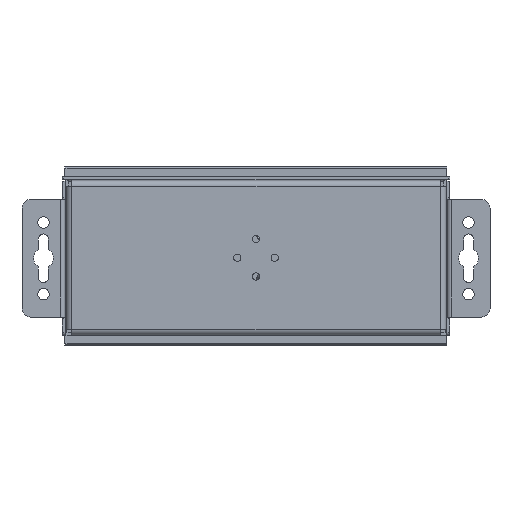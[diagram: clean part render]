
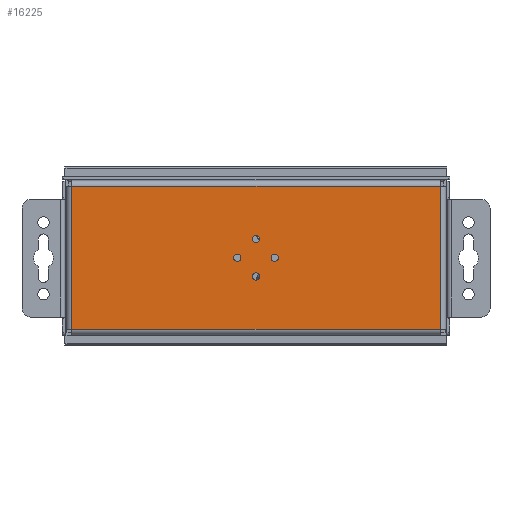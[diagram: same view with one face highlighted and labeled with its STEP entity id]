
A CAD part, front view. The second image highlights one B-rep face of the part: STEP entity #16225.
In plain terms, the highlighted planar face has unit normal (0, -1, 0).
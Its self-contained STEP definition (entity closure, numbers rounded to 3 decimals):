
#550=FACE_BOUND('',#2337,.T.);
#551=FACE_BOUND('',#2338,.T.);
#552=FACE_BOUND('',#2339,.T.);
#553=FACE_BOUND('',#2340,.T.);
#807=PLANE('',#17308);
#1412=FACE_OUTER_BOUND('',#2336,.T.);
#2336=EDGE_LOOP('',(#11400,#11401,#11402,#11403));
#2337=EDGE_LOOP('',(#11404));
#2338=EDGE_LOOP('',(#11405));
#2339=EDGE_LOOP('',(#11406));
#2340=EDGE_LOOP('',(#11407));
#3415=LINE('',#23501,#5036);
#3434=LINE('',#23549,#5055);
#3445=LINE('',#23580,#5066);
#3473=LINE('',#23643,#5094);
#5036=VECTOR('',#18876,10.);
#5055=VECTOR('',#18927,10.);
#5066=VECTOR('',#18958,10.);
#5094=VECTOR('',#19032,10.);
#6641=CIRCLE('',#17211,1.265);
#6643=CIRCLE('',#17214,1.265);
#6645=CIRCLE('',#17217,1.265);
#6647=CIRCLE('',#17220,1.265);
#7175=VERTEX_POINT('',#23415);
#7177=VERTEX_POINT('',#23421);
#7179=VERTEX_POINT('',#23427);
#7181=VERTEX_POINT('',#23433);
#7201=VERTEX_POINT('',#23498);
#7202=VERTEX_POINT('',#23500);
#7215=VERTEX_POINT('',#23548);
#7225=VERTEX_POINT('',#23578);
#8749=EDGE_CURVE('',#7175,#7175,#6641,.T.);
#8752=EDGE_CURVE('',#7177,#7177,#6643,.T.);
#8755=EDGE_CURVE('',#7179,#7179,#6645,.T.);
#8758=EDGE_CURVE('',#7181,#7181,#6647,.T.);
#8787=EDGE_CURVE('',#7202,#7201,#3415,.T.);
#8811=EDGE_CURVE('',#7215,#7202,#3434,.T.);
#8827=EDGE_CURVE('',#7201,#7225,#3445,.T.);
#8860=EDGE_CURVE('',#7225,#7215,#3473,.T.);
#11400=ORIENTED_EDGE('',*,*,#8787,.T.);
#11401=ORIENTED_EDGE('',*,*,#8827,.T.);
#11402=ORIENTED_EDGE('',*,*,#8860,.T.);
#11403=ORIENTED_EDGE('',*,*,#8811,.T.);
#11404=ORIENTED_EDGE('',*,*,#8749,.T.);
#11405=ORIENTED_EDGE('',*,*,#8752,.T.);
#11406=ORIENTED_EDGE('',*,*,#8755,.T.);
#11407=ORIENTED_EDGE('',*,*,#8758,.T.);
#16225=ADVANCED_FACE('',(#1412,#550,#551,#552,#553),#807,.F.);
#17211=AXIS2_PLACEMENT_3D('',#23416,#18773,#18774);
#17214=AXIS2_PLACEMENT_3D('',#23422,#18780,#18781);
#17217=AXIS2_PLACEMENT_3D('',#23428,#18787,#18788);
#17220=AXIS2_PLACEMENT_3D('',#23434,#18794,#18795);
#17308=AXIS2_PLACEMENT_3D('',#23648,#19040,#19041);
#18773=DIRECTION('center_axis',(0.,1.,0.));
#18774=DIRECTION('ref_axis',(0.,0.,-1.));
#18780=DIRECTION('center_axis',(0.,1.,0.));
#18781=DIRECTION('ref_axis',(0.,0.,-1.));
#18787=DIRECTION('center_axis',(0.,1.,0.));
#18788=DIRECTION('ref_axis',(0.,0.,-1.));
#18794=DIRECTION('center_axis',(0.,1.,0.));
#18795=DIRECTION('ref_axis',(0.,0.,-1.));
#18876=DIRECTION('',(-1.,0.,0.));
#18927=DIRECTION('',(0.,0.,1.));
#18958=DIRECTION('',(0.,0.,-1.));
#19032=DIRECTION('',(1.,0.,0.));
#19040=DIRECTION('center_axis',(0.,1.,0.));
#19041=DIRECTION('ref_axis',(1.,0.,0.));
#23415=CARTESIAN_POINT('',(-6.5,0.,1.265));
#23416=CARTESIAN_POINT('Origin',(-6.5,0.,0.));
#23421=CARTESIAN_POINT('',(0.,0.,7.765));
#23422=CARTESIAN_POINT('Origin',(0.,0.,6.5));
#23427=CARTESIAN_POINT('',(6.5,0.,1.265));
#23428=CARTESIAN_POINT('Origin',(6.5,0.,0.));
#23433=CARTESIAN_POINT('',(0.,0.,-5.236));
#23434=CARTESIAN_POINT('Origin',(0.,0.,-6.5));
#23498=CARTESIAN_POINT('',(-64.25,0.,24.925));
#23500=CARTESIAN_POINT('',(64.25,0.,24.925));
#23501=CARTESIAN_POINT('',(-32.125,0.,24.925));
#23548=CARTESIAN_POINT('',(64.25,0.,-24.925));
#23549=CARTESIAN_POINT('',(64.25,0.,13.463));
#23578=CARTESIAN_POINT('',(-64.25,0.,-24.925));
#23580=CARTESIAN_POINT('',(-64.25,0.,-12.463));
#23643=CARTESIAN_POINT('',(33.125,0.,-24.925));
#23648=CARTESIAN_POINT('Origin',(0.,0.,0.));
